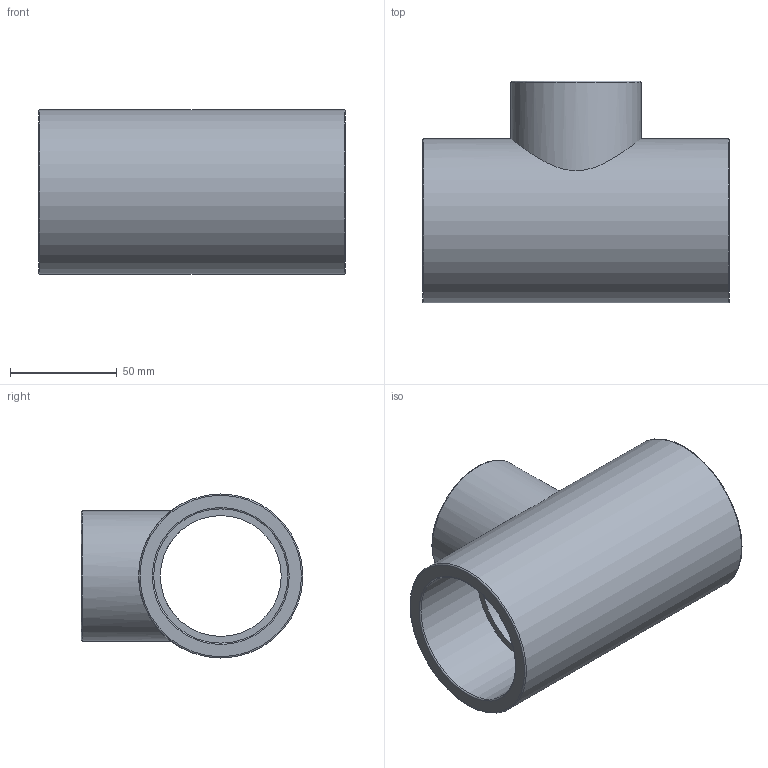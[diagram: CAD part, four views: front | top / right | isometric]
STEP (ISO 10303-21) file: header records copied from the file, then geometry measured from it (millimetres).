
FILE_DESCRIPTION(/* description */ ('PLASSON REDUCER TEE - CEMENT PVC 63-50-63'),/* implementation_level */ '2;1');
FILE_NAME(/* name */ 'C:\Dropbox\KIMPROJECTS-Inventor\99-16-3568-Processing\PVC Catalog 2017\051400\051400063050.ipt.stp',/* time_stamp */ '2017-12-07T16:00:28+02:00',/* author */ ('KIM'),/* organization */ (''),/* preprocessor_version */ 'ST-DEVELOPER v15.6',/* originating_system */ 'Autodesk Inventor 2015',/* authorisation */ '');
FILE_SCHEMA (('AUTOMOTIVE_DESIGN { 1 0 10303 214 3 1 1 }'));
Length unit declared in the file: millimetre
Products named in the file (1): 051400063050
Bounding box: 144 x 104 x 77 mm (x, y, z)
Volume: 275899.2 mm3; surface area: 75254.6 mm2
Topology: 1 solids, 1 shells, 19 faces, 39 edges, 24 vertices
Faces by surface type: cylinder 7, torus 6, plane 6
Full cylindrical faces by diameter (mm): 45 x1, 50 x1, 56.7 x1, 61 x1, 63 x2, 77 x1
Entity records: 550 total; most frequent: CARTESIAN_POINT 190, DIRECTION 76, EDGE_LOOP 40, ORIENTED_EDGE 40, AXIS2_PLACEMENT_3D 38, FACE_BOUND 21, VERTEX_POINT 20, EDGE_CURVE 20
